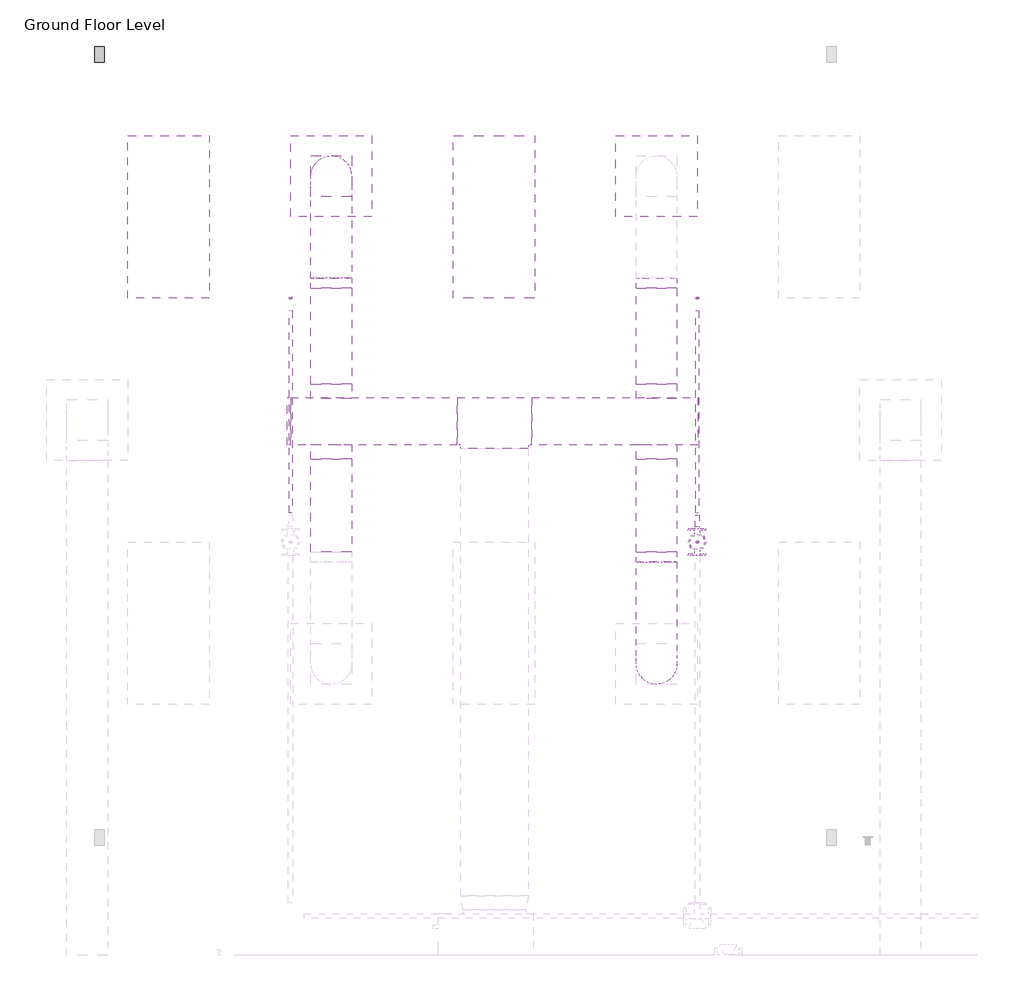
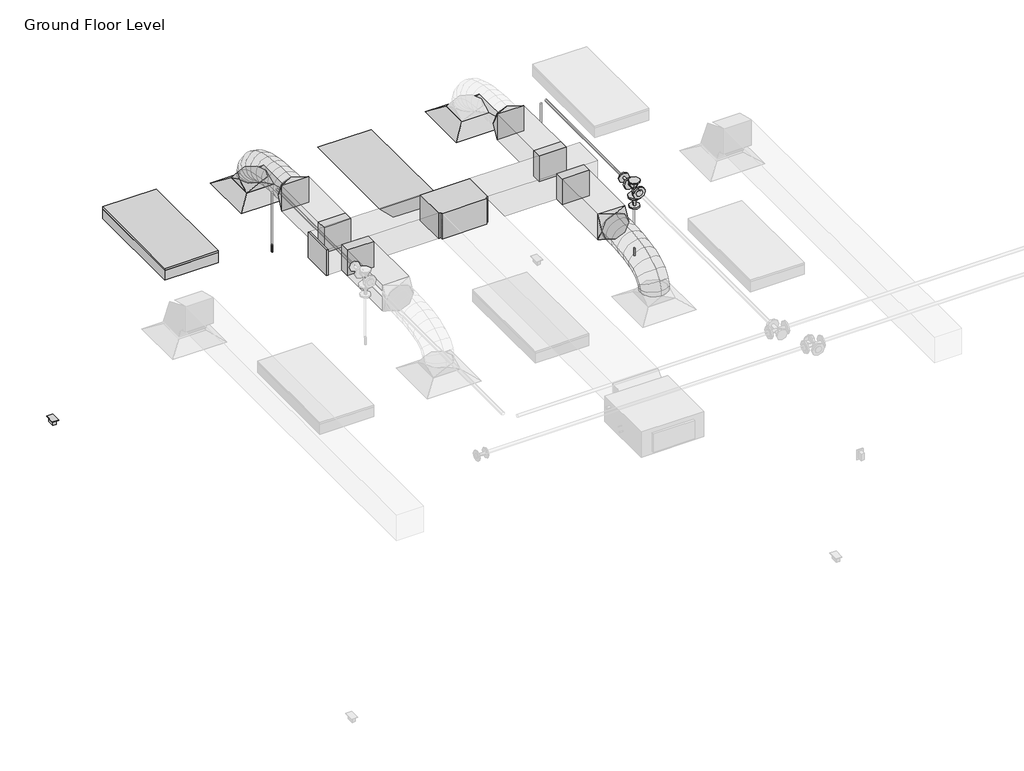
# One storey, part 55 of 74: 10 duct fittings, 8 duct segments, 5 pipe segments, 3 fire suppression terminals, 3 pipe fittings, 2 air terminals, 2 light fixtures, 1 proxy.
"""IFC4 building model written with IfcOpenShell, lengths in millimetres."""

from ifc_helpers import new_model, si_unit, point, frame, frame_2d, origin, place, context, project, spatial, polyline, circle_curve, ellipse_curve, trimmed, segment, composite_curve, outline, extrude, transform, mapped, element, save
from ifc_brep_helpers import plane_surface, cylinder_surface, advanced_brep
from components import m_return_diffuser_600_x_600_face_300_x_300_connection_ff221211, m_duplex_receptacle_standard_10251bba, m_rectangular_endcap_standard_eed78c44, m_rectangular_takeoff_standard_cb0ccb98, m_rectangular_takeoff_standard_2be5eba1, m_rectangular_tee_standard_9fc1ddf1, m_rectangular_to_round_transition_angle_45_degree_641efff0, m_sprinkler_dry_pendent_hosted_15_mm_dry_pendent_9bda8e11, m_emergency_recessed_lighting_fixture_600x1200_277_5b10b25d, m_troffer_light_parabolic_rectangular1_0600x1200mm_4_lamp_86473d4a, m_reducer_flanged_cs_class_150_standard_d42b2106, m_tee_round_base_flanged_cs_class_150_standard_7e5987a1

model = new_model("IFC4")

# Units and contexts
model_context = context("Model", 3, world=origin())
ifc_project = project(units=[si_unit("LENGTHUNIT", "METRE", prefix="MILLI")], contexts=[model_context])

# Site, building, storey
site = spatial("IfcSite", under=ifc_project)
building = spatial("IfcBuilding", under=site)
storey = spatial("IfcBuildingStorey", under=building, Name="Ground Floor Level", Elevation=900.0)

# Air terminals
placement = place(None, origin())
m_return_diffuser_600_x_600_face_300_x_300_connection_shape = m_return_diffuser_600_x_600_face_300_x_300_connection_ff221211(model_context)
element("IfcAirTerminal", 1, ObjectType="M_Supply Diffuser : 600 x 600 Face 300 x 300 Connection", at=placement, inside=storey, context=model_context, shape_type="MappedRepresentation", body=[
    mapped(m_return_diffuser_600_x_600_face_300_x_300_connection_shape, transform((-19137.2327605, 20535.2153534, 3650.0), x_axis=(1.0, 0.0, 0.0), y_axis=(0.0, 1.0, 0.0), z_axis=(0.0, 0.0, 1.0))),
])
element("IfcAirTerminal", 2, ObjectType="M_Supply Diffuser : 600 x 600 Face 300 x 300 Connection", at=placement, inside=storey, context=model_context, shape_type="MappedRepresentation", body=[
    mapped(m_return_diffuser_600_x_600_face_300_x_300_connection_shape, transform((-16737.2327605, 20535.2153534, 3650.0), x_axis=(1.0, 0.0, 0.0), y_axis=(0.0, 1.0, 0.0), z_axis=(0.0, 0.0, 1.0))),
])

# Proxy
m_duplex_receptacle_standard_shape = m_duplex_receptacle_standard_10251bba(model_context)
element("IfcBuildingElementProxy", 3, Name="M_Duplex Receptacle : Standard", ObjectType="M_Duplex Receptacle : Standard", at=placement, inside=storey, context=model_context, shape_type="MappedRepresentation", body=[
    mapped(m_duplex_receptacle_standard_shape, transform((-20847.2327605, 21435.2153534, 1000.0), x_axis=(-1.0, 0.0, 0.0), y_axis=(0.0, -1.0, 0.0), z_axis=(0.0, 0.0, 1.0))),
])

# Duct fittings
m_rectangular_endcap_standard_shape = m_rectangular_endcap_standard_eed78c44(model_context)
element("IfcDuctFitting", 4, ObjectType="M_Rectangular Endcap : Standard", at=placement, inside=storey, context=model_context, shape_type="MappedRepresentation", body=[
    mapped(m_rectangular_endcap_standard_shape, transform((-19437.2326293, 18724.6783949, 4099.9991374), x_axis=(-0.9999999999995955, 0.0, -8.994654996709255e-07), y_axis=(0.0, -1.0000000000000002, 0.0), z_axis=(-8.994654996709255e-07, 0.0, 0.9999999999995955))),
])
m_rectangular_takeoff_standard_shape = m_rectangular_takeoff_standard_cb0ccb98(model_context)
element("IfcDuctFitting", 5, ObjectType="M_Rectangular Takeoff : Standard", at=placement, inside=storey, context=model_context, shape_type="MappedRepresentation", body=[
    mapped(m_rectangular_takeoff_standard_shape, transform((-16737.2327605, 18899.6783949, 4099.9993619), x_axis=(0.0, 1.0, 0.0), y_axis=(1.0, 0.0, 0.0), z_axis=(0.0, 0.0, -1.0))),
])
element("IfcDuctFitting", 6, ObjectType="M_Rectangular Takeoff : Standard", at=placement, inside=storey, context=model_context, shape_type="MappedRepresentation", body=[
    mapped(m_rectangular_takeoff_standard_shape, transform((-19137.2327605, 18549.6783949, 4099.9994072), x_axis=(0.0, -1.0, 0.0), y_axis=(-1.0, 0.0, 0.0), z_axis=(0.0, 0.0, -1.0))),
])
m_rectangular_takeoff_standard_2_shape = m_rectangular_takeoff_standard_2be5eba1(model_context)
element("IfcDuctFitting", 7, ObjectType="M_Rectangular Takeoff : Standard", at=placement, inside=storey, context=model_context, shape_type="MappedRepresentation", body=[
    mapped(m_rectangular_takeoff_standard_2_shape, transform((-19137.2327605, 18899.6783949, 4099.9994072), x_axis=(0.0, 1.0, 0.0), y_axis=(1.0, 0.0, 0.0), z_axis=(0.0, 0.0, -1.0))),
])
element("IfcDuctFitting", 8, ObjectType="M_Rectangular Takeoff : Standard", at=placement, inside=storey, context=model_context, shape_type="MappedRepresentation", body=[
    mapped(m_rectangular_takeoff_standard_2_shape, transform((-16737.2327605, 18549.6783949, 4099.9993619), x_axis=(0.0, -1.0, 0.0), y_axis=(-1.0, 0.0, 0.0), z_axis=(0.0, 0.0, -1.0))),
])
m_rectangular_tee_standard_shape = m_rectangular_tee_standard_9fc1ddf1(model_context)
element("IfcDuctFitting", 9, ObjectType="M_Rectangular Tee : Standard", at=placement, inside=storey, context=model_context, shape_type="MappedRepresentation", body=[
    mapped(m_rectangular_tee_standard_shape, transform((-17933.7327605, 18724.6783949, 4100.0001212), x_axis=(0.999999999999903, 0.0, -4.406637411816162e-07), y_axis=(-1.704451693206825e-12, 0.9999999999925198, -3.867919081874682e-06), z_axis=(4.406637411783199e-07, 3.867919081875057e-06, 0.9999999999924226))),
])
m_rectangular_to_round_transition_angle_45_degree_shape = m_rectangular_to_round_transition_angle_45_degree_641efff0(model_context)
element("IfcDuctFitting", 10, ObjectType="M_Rectangular to Round Transition - Angle : 45 Degree", at=placement, inside=storey, context=model_context, shape_type="MappedRepresentation", body=[
    mapped(m_rectangular_to_round_transition_angle_45_degree_shape, transform((-19137.2327605, 20535.2153534, 3751.6), x_axis=(0.0, 0.0, 1.0), y_axis=(-1.0, 0.0, 0.0), z_axis=(0.0, -1.0, 0.0))),
])
element("IfcDuctFitting", 11, ObjectType="M_Rectangular to Round Transition - Angle : 45 Degree", at=placement, inside=storey, context=model_context, shape_type="MappedRepresentation", body=[
    mapped(m_rectangular_to_round_transition_angle_45_degree_shape, transform((-19137.2327605, 19707.8788293, 4099.9994072), x_axis=(0.0, 1.0, 0.0), y_axis=(-1.0, 0.0, 0.0), z_axis=(0.0, 0.0, 1.0))),
])
element("IfcDuctFitting", 12, ObjectType="M_Rectangular to Round Transition - Angle : 45 Degree", at=placement, inside=storey, context=model_context, shape_type="MappedRepresentation", body=[
    mapped(m_rectangular_to_round_transition_angle_45_degree_shape, transform((-16737.2327605, 19707.878784, 4099.9993619), x_axis=(0.0, 1.0, 0.0), y_axis=(-1.0, 0.0, 0.0), z_axis=(0.0, 0.0, 1.0))),
])
element("IfcDuctFitting", 13, ObjectType="M_Rectangular to Round Transition - Angle : 45 Degree", at=placement, inside=storey, context=model_context, shape_type="MappedRepresentation", body=[
    mapped(m_rectangular_to_round_transition_angle_45_degree_shape, transform((-16737.2327605, 17762.5519228, 4099.9993619), x_axis=(0.0, -1.0, 0.0), y_axis=(1.0, 0.0, 0.0), z_axis=(0.0, 0.0, 1.0))),
])

# Duct segments
element("IfcDuctSegment", 14, ObjectType="Flex - Round", at=placement, inside=storey, context=model_context, shape_type="AdvancedBrep", body=[
    advanced_brep(
    [(-18987.2327605, 20535.2153534, 3826.6), (-19137.2327605, 20385.2153534, 3826.6), (-19287.2327605, 20535.2153534, 3826.6), (-19137.2327605, 20685.2153534, 3826.6), (-18987.2327605, 20535.2153534, 3857.9377363), (-19137.2327605, 20385.2153534, 3832.2944836), (-19287.2327605, 20535.2153534, 3857.9377363), (-19137.2327605, 20685.2153534, 3883.580989), (-18987.2327605, 20518.1994044, 3906.2505836), (-19137.2327605, 20384.4614628, 3834.4349814), (-19287.2327605, 20518.1994044, 3906.2505836), (-19137.2327605, 20651.937346, 3978.0661859), (-18987.2327605, 20471.0154793, 3968.711286), (-19137.2327605, 20366.8096815, 3857.8018941), (-19287.2327605, 20471.0154793, 3968.711286), (-19137.2327605, 20575.2212771, 4079.6206779), (-18987.2327605, 20399.4594609, 4016.0699627), (-19137.2327605, 20330.5255652, 3881.8161947), (-19287.2327605, 20399.4594609, 4016.0699627), (-19137.2327605, 20468.3933566, 4150.3237308), (-18987.2327605, 20309.327232, 4050.4144697), (-19137.2327605, 20265.7666436, 3906.4923095), (-19287.2327605, 20309.327232, 4050.4144697), (-19137.2327605, 20352.8878205, 4194.3366298), (-18987.2327605, 20206.4146755, 4073.8326625), (-19137.2327605, 20179.8539172, 3926.0421182), (-19287.2327605, 20206.4146755, 4073.8326625), (-19137.2327605, 20232.9754339, 4221.6232067), (-18987.2327605, 20096.5176742, 4088.4123969), (-19137.2327605, 20081.3669159, 3939.1081192), (-19287.2327605, 20096.5176742, 4088.4123969), (-19137.2327605, 20111.6684325, 4237.7166746), (-18987.2327605, 19985.4321108, 4096.2415287), (-19137.2327605, 19977.9268947, 3946.3984054), (-19287.2327605, 19985.4321108, 4096.2415287), (-19137.2327605, 19992.937327, 4246.0846519), (-18987.2327605, 19878.9538683, 4099.4079135), (-19137.2327605, 19876.262441, 3949.4216408), (-19287.2327605, 19878.9538683, 4099.4079135), (-19137.2327605, 19881.6452955, 4249.3941863), (-18987.2327605, 19782.8788293, 4099.9994072), (-19137.2327605, 19783.8022988, 4249.9965645), (-19287.2327605, 19782.8788293, 4099.9994072), (-19137.2327605, 19781.9553598, 3950.0022499)],
    [
        (0, 1, circle_curve(frame((-19137.2327605, 20535.2153534, 3826.6), z_axis=(0.0, 0.0, -1.0), x_axis=(1.0, 0.0, 0.0)), 150.0)),
        (1, 2, circle_curve(frame((-19137.2327605, 20535.2153534, 3826.6), z_axis=(0.0, 0.0, -1.0), x_axis=(1.0, 0.0, 0.0)), 150.0)),
        (2, 3, circle_curve(frame((-19137.2327605, 20535.2153534, 3826.6), z_axis=(0.0, 0.0, -1.0), x_axis=(1.0, 0.0, 0.0)), 150.0)),
        (3, 0, circle_curve(frame((-19137.2327605, 20535.2153534, 3826.6), z_axis=(0.0, 0.0, -1.0), x_axis=(1.0, 0.0, 0.0)), 150.0)),
        (0, 4),
        (4, 5, ellipse_curve(frame((-19137.2327605, 20535.2153534, 3857.9377363), z_axis=(0.0, 0.16851034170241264, -0.9856998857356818), x_axis=(0.0, -0.9856998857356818, -0.16851034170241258)), 152.1761361, 150.0)),
        (5, 1),
        (5, 6, ellipse_curve(frame((-19137.2327605, 20535.2153534, 3857.9377363), z_axis=(0.0, 0.16851034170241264, -0.9856998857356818), x_axis=(0.0, -0.9856998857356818, -0.16851034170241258)), 152.1761361, 150.0)),
        (6, 2),
        (6, 7, ellipse_curve(frame((-19137.2327605, 20535.2153534, 3857.9377363), z_axis=(0.0, 0.16851034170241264, -0.9856998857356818), x_axis=(0.0, -0.9856998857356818, -0.16851034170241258)), 152.1761361, 150.0)),
        (7, 3),
        (7, 4, ellipse_curve(frame((-19137.2327605, 20535.2153534, 3857.9377363), z_axis=(0.0, 0.16851034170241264, -0.9856998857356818), x_axis=(0.0, -0.9856998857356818, -0.16851034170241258)), 152.1761361, 150.0)),
        (4, 8),
        (8, 9, ellipse_curve(frame((-19137.2327605, 20518.1994044, 3906.2505836), z_axis=(0.0, 0.4730927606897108, -0.8810126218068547), x_axis=(0.0, -0.8810126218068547, -0.47309276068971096)), 151.8002561, 150.0)),
        (9, 5),
        (9, 10, ellipse_curve(frame((-19137.2327605, 20518.1994044, 3906.2505836), z_axis=(0.0, 0.4730927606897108, -0.8810126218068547), x_axis=(0.0, -0.8810126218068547, -0.47309276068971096)), 151.8002561, 150.0)),
        (10, 6),
        (10, 11, ellipse_curve(frame((-19137.2327605, 20518.1994044, 3906.2505836), z_axis=(0.0, 0.4730927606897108, -0.8810126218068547), x_axis=(0.0, -0.8810126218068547, -0.47309276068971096)), 151.8002561, 150.0)),
        (11, 7),
        (11, 8, ellipse_curve(frame((-19137.2327605, 20518.1994044, 3906.2505836), z_axis=(0.0, 0.4730927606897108, -0.8810126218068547), x_axis=(0.0, -0.8810126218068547, -0.47309276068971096)), 151.8002561, 150.0)),
        (8, 12),
        (12, 13, ellipse_curve(frame((-19137.2327605, 20471.0154793, 3968.711286), z_axis=(0.0, 0.7287884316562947, -0.6847389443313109), x_axis=(0.0, -0.6847389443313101, -0.7287884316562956)), 152.1832498, 150.0)),
        (13, 9),
        (13, 14, ellipse_curve(frame((-19137.2327605, 20471.0154793, 3968.711286), z_axis=(0.0, 0.7287884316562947, -0.6847389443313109), x_axis=(0.0, -0.6847389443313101, -0.7287884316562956)), 152.1832498, 150.0)),
        (14, 10),
        (14, 15, ellipse_curve(frame((-19137.2327605, 20471.0154793, 3968.711286), z_axis=(0.0, 0.7287884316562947, -0.6847389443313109), x_axis=(0.0, -0.6847389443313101, -0.7287884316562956)), 152.1832498, 150.0)),
        (15, 11),
        (15, 12, ellipse_curve(frame((-19137.2327605, 20471.0154793, 3968.711286), z_axis=(0.0, 0.7287884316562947, -0.6847389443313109), x_axis=(0.0, -0.6847389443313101, -0.7287884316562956)), 152.1832498, 150.0)),
        (12, 16),
        (16, 17, ellipse_curve(frame((-19137.2327605, 20399.4594609, 4016.0699627), z_axis=(0.0, 0.8895864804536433, -0.45676678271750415), x_axis=(0.0, -0.4567667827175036, -0.8895864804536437)), 150.9170508, 150.0)),
        (17, 13),
        (17, 18, ellipse_curve(frame((-19137.2327605, 20399.4594609, 4016.0699627), z_axis=(0.0, 0.8895864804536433, -0.45676678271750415), x_axis=(0.0, -0.4567667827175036, -0.8895864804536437)), 150.9170508, 150.0)),
        (18, 14),
        (18, 19, ellipse_curve(frame((-19137.2327605, 20399.4594609, 4016.0699627), z_axis=(0.0, 0.8895864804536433, -0.45676678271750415), x_axis=(0.0, -0.4567667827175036, -0.8895864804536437)), 150.9170508, 150.0)),
        (19, 15),
        (19, 16, ellipse_curve(frame((-19137.2327605, 20399.4594609, 4016.0699627), z_axis=(0.0, 0.8895864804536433, -0.45676678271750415), x_axis=(0.0, -0.4567667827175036, -0.8895864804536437)), 150.9170508, 150.0)),
        (16, 20),
        (20, 21, ellipse_curve(frame((-19137.2327605, 20309.327232, 4050.4144697), z_axis=(0.0, 0.9571206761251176, -0.28968950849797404), x_axis=(0.0, -0.2896895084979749, -0.9571206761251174)), 150.3699207, 150.0)),
        (21, 17),
        (21, 22, ellipse_curve(frame((-19137.2327605, 20309.327232, 4050.4144697), z_axis=(0.0, 0.9571206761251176, -0.28968950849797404), x_axis=(0.0, -0.2896895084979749, -0.9571206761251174)), 150.3699207, 150.0)),
        (22, 18),
        (22, 23, ellipse_curve(frame((-19137.2327605, 20309.327232, 4050.4144697), z_axis=(0.0, 0.9571206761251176, -0.28968950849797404), x_axis=(0.0, -0.2896895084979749, -0.9571206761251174)), 150.3699207, 150.0)),
        (23, 19),
        (23, 20, ellipse_curve(frame((-19137.2327605, 20309.327232, 4050.4144697), z_axis=(0.0, 0.9571206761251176, -0.28968950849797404), x_axis=(0.0, -0.2896895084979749, -0.9571206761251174)), 150.3699207, 150.0)),
        (20, 24),
        (24, 25, ellipse_curve(frame((-19137.2327605, 20206.4146755, 4073.8326625), z_axis=(0.0, 0.9842315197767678, -0.17688503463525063), x_axis=(0.0, -0.17688503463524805, -0.9842315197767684)), 150.1583126, 150.0)),
        (25, 21),
        (25, 26, ellipse_curve(frame((-19137.2327605, 20206.4146755, 4073.8326625), z_axis=(0.0, 0.9842315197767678, -0.17688503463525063), x_axis=(0.0, -0.17688503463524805, -0.9842315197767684)), 150.1583126, 150.0)),
        (26, 22),
        (26, 27, ellipse_curve(frame((-19137.2327605, 20206.4146755, 4073.8326625), z_axis=(0.0, 0.9842315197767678, -0.17688503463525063), x_axis=(0.0, -0.17688503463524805, -0.9842315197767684)), 150.1583126, 150.0)),
        (27, 23),
        (27, 24, ellipse_curve(frame((-19137.2327605, 20206.4146755, 4073.8326625), z_axis=(0.0, 0.9842315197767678, -0.17688503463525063), x_axis=(0.0, -0.17688503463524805, -0.9842315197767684)), 150.1583126, 150.0)),
        (24, 28),
        (28, 29, ellipse_curve(frame((-19137.2327605, 20096.5176742, 4088.4123969), z_axis=(0.0, 0.994890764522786, -0.10095725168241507), x_axis=(0.0, -0.10095725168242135, -0.9948907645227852)), 150.0710259, 150.0)),
        (29, 25),
        (29, 30, ellipse_curve(frame((-19137.2327605, 20096.5176742, 4088.4123969), z_axis=(0.0, 0.994890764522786, -0.10095725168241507), x_axis=(0.0, -0.10095725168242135, -0.9948907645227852)), 150.0710259, 150.0)),
        (30, 26),
        (30, 31, ellipse_curve(frame((-19137.2327605, 20096.5176742, 4088.4123969), z_axis=(0.0, 0.994890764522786, -0.10095725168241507), x_axis=(0.0, -0.10095725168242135, -0.9948907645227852)), 150.0710259, 150.0)),
        (31, 27),
        (31, 28, ellipse_curve(frame((-19137.2327605, 20096.5176742, 4088.4123969), z_axis=(0.0, 0.994890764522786, -0.10095725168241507), x_axis=(0.0, -0.10095725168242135, -0.9948907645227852)), 150.0710259, 150.0)),
        (28, 32),
        (32, 33, ellipse_curve(frame((-19137.2327605, 19985.4321108, 4096.2415287), z_axis=(0.0, 0.9987479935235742, -0.05002444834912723), x_axis=(0.0, -0.05002444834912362, -0.9987479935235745)), 150.030963, 150.0)),
        (33, 29),
        (33, 34, ellipse_curve(frame((-19137.2327605, 19985.4321108, 4096.2415287), z_axis=(0.0, 0.9987479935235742, -0.05002444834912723), x_axis=(0.0, -0.05002444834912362, -0.9987479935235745)), 150.030963, 150.0)),
        (34, 30),
        (34, 35, ellipse_curve(frame((-19137.2327605, 19985.4321108, 4096.2415287), z_axis=(0.0, 0.9987479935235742, -0.05002444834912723), x_axis=(0.0, -0.05002444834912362, -0.9987479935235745)), 150.030963, 150.0)),
        (35, 31),
        (35, 32, ellipse_curve(frame((-19137.2327605, 19985.4321108, 4096.2415287), z_axis=(0.0, 0.9987479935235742, -0.05002444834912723), x_axis=(0.0, -0.05002444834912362, -0.9987479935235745)), 150.030963, 150.0)),
        (32, 36),
        (36, 37, ellipse_curve(frame((-19137.2327605, 19878.9538683, 4099.4079135), z_axis=(0.0, 0.9998390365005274, -0.017941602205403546), x_axis=(0.0, -0.01794160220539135, -0.9998390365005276)), 150.0104189, 150.0)),
        (37, 33),
        (37, 38, ellipse_curve(frame((-19137.2327605, 19878.9538683, 4099.4079135), z_axis=(0.0, 0.9998390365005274, -0.017941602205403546), x_axis=(0.0, -0.01794160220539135, -0.9998390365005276)), 150.0104189, 150.0)),
        (38, 34),
        (38, 39, ellipse_curve(frame((-19137.2327605, 19878.9538683, 4099.4079135), z_axis=(0.0, 0.9998390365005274, -0.017941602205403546), x_axis=(0.0, -0.01794160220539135, -0.9998390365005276)), 150.0104189, 150.0)),
        (39, 35),
        (39, 36, ellipse_curve(frame((-19137.2327605, 19878.9538683, 4099.4079135), z_axis=(0.0, 0.9998390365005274, -0.017941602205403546), x_axis=(0.0, -0.01794160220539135, -0.9998390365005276)), 150.0104189, 150.0)),
        (40, 41, circle_curve(frame((-19137.2327605, 19782.8788293, 4099.9994072), z_axis=(0.0, -0.9999810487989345, 0.006156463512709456), x_axis=(1.0, 0.0, 0.0)), 150.0)),
        (41, 42, circle_curve(frame((-19137.2327605, 19782.8788293, 4099.9994072), z_axis=(0.0, -0.9999810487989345, 0.006156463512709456), x_axis=(1.0, 0.0, 0.0)), 150.0)),
        (42, 43, circle_curve(frame((-19137.2327605, 19782.8788293, 4099.9994072), z_axis=(0.0, -0.9999810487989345, 0.006156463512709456), x_axis=(1.0, 0.0, 0.0)), 150.0)),
        (43, 40, circle_curve(frame((-19137.2327605, 19782.8788293, 4099.9994072), z_axis=(0.0, -0.9999810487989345, 0.006156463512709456), x_axis=(1.0, 0.0, 0.0)), 150.0)),
        (36, 40),
        (43, 37),
        (42, 38),
        (41, 39),
    ],
    [
        plane_surface(frame((-19137.2327605, 20385.2153534, 3826.6), z_axis=(0.0, 0.0, -1.0), x_axis=(1.0, 0.0, 0.0))),
        cylinder_surface(frame((-19137.2327605, 20535.2153534, 3826.6), z_axis=(0.0, 0.0, -1.0), x_axis=(1.0, 0.0, 0.0)), 150.0),
        cylinder_surface(frame((-19137.2327605, 20535.2153534, 3857.9377363), z_axis=(0.0, 0.33220124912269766, -0.9432085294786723), x_axis=(1.0, 0.0, 0.0)), 150.0),
        cylinder_surface(frame((-19137.2327605, 20518.1994044, 3906.2505836), z_axis=(0.0, 0.602763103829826, -0.7979201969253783), x_axis=(1.0, 0.0, 0.0)), 150.0),
        cylinder_surface(frame((-19137.2327605, 20471.0154793, 3968.711286), z_axis=(0.0, 0.8339030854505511, -0.5519109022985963), x_axis=(1.0, 0.0, 0.0)), 150.0),
        cylinder_surface(frame((-19137.2327605, 20399.4594609, 4016.0699627), z_axis=(0.0, 0.9344586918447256, -0.3560715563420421), x_axis=(1.0, 0.0, 0.0)), 150.0),
        cylinder_surface(frame((-19137.2327605, 20309.327232, 4050.4144697), z_axis=(0.0, 0.9750734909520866, -0.22188214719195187), x_axis=(1.0, 0.0, 0.0)), 150.0),
        cylinder_surface(frame((-19137.2327605, 20206.4146755, 4073.8326625), z_axis=(0.0, 0.9913141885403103, -0.1315149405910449), x_axis=(1.0, 0.0, 0.0)), 150.0),
        cylinder_surface(frame((-19137.2327605, 20096.5176742, 4088.4123969), z_axis=(0.0, 0.9975256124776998, -0.07030400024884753), x_axis=(1.0, 0.0, 0.0)), 150.0),
        cylinder_surface(frame((-19137.2327605, 19985.4321108, 4096.2415287), z_axis=(0.0, 0.9995581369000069, -0.029724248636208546), x_axis=(1.0, 0.0, 0.0)), 150.0),
        plane_surface(frame((-19137.2327605, 19781.9553598, 3950.0022499), z_axis=(0.0, -0.9999810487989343, 0.0061564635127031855), x_axis=(1.0, 0.0, 0.0))),
        cylinder_surface(frame((-19137.2327605, 19878.9538683, 4099.4079135), z_axis=(0.0, 0.9999810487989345, -0.006156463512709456), x_axis=(1.0, 0.0, 0.0)), 150.0),
    ],
    [
        (0, [[1, 2, 3, 4]]),
        (1, [[-1, 5, 6, 7]]),
        (1, [[-2, -7, 8, 9]]),
        (1, [[-3, -9, 10, 11]]),
        (1, [[-4, -11, 12, -5]]),
        (2, [[-6, 13, 14, 15]]),
        (2, [[-8, -15, 16, 17]]),
        (2, [[-10, -17, 18, 19]]),
        (2, [[-12, -19, 20, -13]]),
        (3, [[-14, 21, 22, 23]]),
        (3, [[-16, -23, 24, 25]]),
        (3, [[-18, -25, 26, 27]]),
        (3, [[-20, -27, 28, -21]]),
        (4, [[-22, 29, 30, 31]]),
        (4, [[-24, -31, 32, 33]]),
        (4, [[-26, -33, 34, 35]]),
        (4, [[-28, -35, 36, -29]]),
        (5, [[-30, 37, 38, 39]]),
        (5, [[-32, -39, 40, 41]]),
        (5, [[-34, -41, 42, 43]]),
        (5, [[-36, -43, 44, -37]]),
        (6, [[-38, 45, 46, 47]]),
        (6, [[-40, -47, 48, 49]]),
        (6, [[-42, -49, 50, 51]]),
        (6, [[-44, -51, 52, -45]]),
        (7, [[-46, 53, 54, 55]]),
        (7, [[-48, -55, 56, 57]]),
        (7, [[-50, -57, 58, 59]]),
        (7, [[-52, -59, 60, -53]]),
        (8, [[-54, 61, 62, 63]]),
        (8, [[-56, -63, 64, 65]]),
        (8, [[-58, -65, 66, 67]]),
        (8, [[-60, -67, 68, -61]]),
        (9, [[-62, 69, 70, 71]]),
        (9, [[-64, -71, 72, 73]]),
        (9, [[-66, -73, 74, 75]]),
        (9, [[-68, -75, 76, -69]]),
        (10, [[77, 78, 79, 80]]),
        (11, [[-70, 81, -80, 82]]),
        (11, [[-72, -82, -79, 83]]),
        (11, [[-74, -83, -78, 84]]),
        (11, [[-76, -84, -77, -81]]),
    ],
),
])
element("IfcDuctSegment", 15, ObjectType="Flex - Round", at=placement, inside=storey, context=model_context, shape_type="AdvancedBrep", body=[
    advanced_brep(
    [(-16587.2327605, 16935.2153534, 3826.6), (-16737.2327605, 16785.2153534, 3826.6), (-16887.2327605, 16935.2153534, 3826.6), (-16737.2327605, 17085.2153534, 3826.6), (-16587.2327605, 16935.2153534, 3857.9377382), (-16737.2327605, 16785.2153534, 3883.5809933), (-16887.2327605, 16935.2153534, 3857.9377382), (-16737.2327605, 17085.2153534, 3832.2944832), (-16587.2327605, 16952.2313036, 3906.2505845), (-16737.2327605, 16818.4933649, 3978.0661927), (-16887.2327605, 16952.2313036, 3906.2505845), (-16737.2327605, 17085.9692424, 3834.4349763), (-16587.2327605, 16999.4152322, 3968.7112839), (-16737.2327605, 16895.2094421, 4079.6206836), (-16887.2327605, 16999.4152322, 3968.7112839), (-16737.2327605, 17103.6210222, 3857.8018842), (-16587.2327605, 17070.9712556, 4016.069955), (-16737.2327605, 17002.0373721, 4150.3237294), (-16887.2327605, 17070.9712556, 4016.069955), (-16737.2327605, 17139.9051391, 3881.8161806), (-16587.2327605, 17161.1034906, 4050.4144545), (-16737.2327605, 17117.5429156, 4194.3366186), (-16887.2327605, 17161.1034906, 4050.4144545), (-16737.2327605, 17204.6640657, 3906.4922903), (-16587.2327605, 17264.0160539, 4073.832639), (-16737.2327605, 17237.4553083, 4221.6231855), (-16887.2327605, 17264.0160539, 4073.832639), (-16737.2327605, 17290.5767996, 3926.0420925), (-16587.2327605, 17373.9130621, 4088.4123653), (-16737.2327605, 17358.7623148, 4237.7166441), (-16887.2327605, 17373.9130621, 4088.4123653), (-16737.2327605, 17389.0638095, 3939.1080865), (-16587.2327605, 17484.9986319, 4096.2414901), (-16737.2327605, 17477.4934243, 4246.0846137), (-16887.2327605, 17484.9986319, 4096.2414901), (-16737.2327605, 17492.5038395, 3946.3983665), (-16587.2327605, 17591.4768799, 4099.4078701), (-16737.2327605, 17588.7854577, 4249.3941429), (-16887.2327605, 17591.4768799, 4099.4078701), (-16737.2327605, 17594.1683021, 3949.4215972), (-16587.2327605, 17687.5519228, 4099.9993619), (-16737.2327605, 17688.4753894, 3950.0022045), (-16887.2327605, 17687.5519228, 4099.9993619), (-16737.2327605, 17686.6284562, 4249.9965192)],
    [
        (0, 1, circle_curve(frame((-16737.2327605, 16935.2153534, 3826.6), z_axis=(0.0, 0.0, -1.0), x_axis=(1.0, 0.0, 0.0)), 150.0)),
        (1, 2, circle_curve(frame((-16737.2327605, 16935.2153534, 3826.6), z_axis=(0.0, 0.0, -1.0), x_axis=(1.0, 0.0, 0.0)), 150.0)),
        (2, 3, circle_curve(frame((-16737.2327605, 16935.2153534, 3826.6), z_axis=(0.0, 0.0, -1.0), x_axis=(1.0, 0.0, 0.0)), 150.0)),
        (3, 0, circle_curve(frame((-16737.2327605, 16935.2153534, 3826.6), z_axis=(0.0, 0.0, -1.0), x_axis=(1.0, 0.0, 0.0)), 150.0)),
        (0, 4),
        (4, 5, ellipse_curve(frame((-16737.2327605, 16935.2153534, 3857.9377382), z_axis=(0.0, -0.16851035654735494, -0.9856998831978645), x_axis=(0.0, 0.9856998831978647, -0.16851035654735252)), 152.1761365, 150.0)),
        (5, 1),
        (5, 6, ellipse_curve(frame((-16737.2327605, 16935.2153534, 3857.9377382), z_axis=(0.0, -0.16851035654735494, -0.9856998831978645), x_axis=(0.0, 0.9856998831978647, -0.16851035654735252)), 152.1761365, 150.0)),
        (6, 2),
        (6, 7, ellipse_curve(frame((-16737.2327605, 16935.2153534, 3857.9377382), z_axis=(0.0, -0.16851035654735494, -0.9856998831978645), x_axis=(0.0, 0.9856998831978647, -0.16851035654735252)), 152.1761365, 150.0)),
        (7, 3),
        (7, 4, ellipse_curve(frame((-16737.2327605, 16935.2153534, 3857.9377382), z_axis=(0.0, -0.16851035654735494, -0.9856998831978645), x_axis=(0.0, 0.9856998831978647, -0.16851035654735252)), 152.1761365, 150.0)),
        (4, 8),
        (8, 9, ellipse_curve(frame((-16737.2327605, 16952.2313036, 3906.2505845), z_axis=(0.0, -0.47309279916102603, -0.8810126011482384), x_axis=(0.0, 0.8810126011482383, -0.4730927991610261)), 151.8002564, 150.0)),
        (9, 5),
        (9, 10, ellipse_curve(frame((-16737.2327605, 16952.2313036, 3906.2505845), z_axis=(0.0, -0.47309279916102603, -0.8810126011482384), x_axis=(0.0, 0.8810126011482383, -0.4730927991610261)), 151.8002564, 150.0)),
        (10, 6),
        (10, 11, ellipse_curve(frame((-16737.2327605, 16952.2313036, 3906.2505845), z_axis=(0.0, -0.47309279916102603, -0.8810126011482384), x_axis=(0.0, 0.8810126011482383, -0.4730927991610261)), 151.8002564, 150.0)),
        (11, 7),
        (11, 8, ellipse_curve(frame((-16737.2327605, 16952.2313036, 3906.2505845), z_axis=(0.0, -0.47309279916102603, -0.8810126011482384), x_axis=(0.0, 0.8810126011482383, -0.4730927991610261)), 151.8002564, 150.0)),
        (8, 12),
        (12, 13, ellipse_curve(frame((-16737.2327605, 16999.4152322, 3968.7112839), z_axis=(0.0, -0.7287884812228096, -0.6847388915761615), x_axis=(0.0, 0.6847388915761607, -0.7287884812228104)), 152.1832501, 150.0)),
        (13, 9),
        (13, 14, ellipse_curve(frame((-16737.2327605, 16999.4152322, 3968.7112839), z_axis=(0.0, -0.7287884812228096, -0.6847388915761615), x_axis=(0.0, 0.6847388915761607, -0.7287884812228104)), 152.1832501, 150.0)),
        (14, 10),
        (14, 15, ellipse_curve(frame((-16737.2327605, 16999.4152322, 3968.7112839), z_axis=(0.0, -0.7287884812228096, -0.6847388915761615), x_axis=(0.0, 0.6847388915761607, -0.7287884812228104)), 152.1832501, 150.0)),
        (15, 11),
        (15, 12, ellipse_curve(frame((-16737.2327605, 16999.4152322, 3968.7112839), z_axis=(0.0, -0.7287884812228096, -0.6847388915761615), x_axis=(0.0, 0.6847388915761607, -0.7287884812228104)), 152.1832501, 150.0)),
        (12, 16),
        (16, 17, ellipse_curve(frame((-16737.2327605, 17070.9712556, 4016.069955), z_axis=(0.0, -0.8895865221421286, -0.4567667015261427), x_axis=(0.0, 0.45676670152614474, -0.8895865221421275)), 150.9170508, 150.0)),
        (17, 13),
        (17, 18, ellipse_curve(frame((-16737.2327605, 17070.9712556, 4016.069955), z_axis=(0.0, -0.8895865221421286, -0.4567667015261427), x_axis=(0.0, 0.45676670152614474, -0.8895865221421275)), 150.9170508, 150.0)),
        (18, 14),
        (18, 19, ellipse_curve(frame((-16737.2327605, 17070.9712556, 4016.069955), z_axis=(0.0, -0.8895865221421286, -0.4567667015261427), x_axis=(0.0, 0.45676670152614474, -0.8895865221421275)), 150.9170508, 150.0)),
        (19, 15),
        (19, 16, ellipse_curve(frame((-16737.2327605, 17070.9712556, 4016.069955), z_axis=(0.0, -0.8895865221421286, -0.4567667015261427), x_axis=(0.0, 0.45676670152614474, -0.8895865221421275)), 150.9170508, 150.0)),
        (16, 20),
        (20, 21, ellipse_curve(frame((-16737.2327605, 17161.1034906, 4050.4144545), z_axis=(0.0, -0.9571207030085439, -0.289689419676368), x_axis=(0.0, 0.28968941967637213, -0.9571207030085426)), 150.3699206, 150.0)),
        (21, 17),
        (21, 22, ellipse_curve(frame((-16737.2327605, 17161.1034906, 4050.4144545), z_axis=(0.0, -0.9571207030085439, -0.289689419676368), x_axis=(0.0, 0.28968941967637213, -0.9571207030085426)), 150.3699206, 150.0)),
        (22, 18),
        (22, 23, ellipse_curve(frame((-16737.2327605, 17161.1034906, 4050.4144545), z_axis=(0.0, -0.9571207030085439, -0.289689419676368), x_axis=(0.0, 0.28968941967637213, -0.9571207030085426)), 150.3699206, 150.0)),
        (23, 19),
        (23, 20, ellipse_curve(frame((-16737.2327605, 17161.1034906, 4050.4144545), z_axis=(0.0, -0.9571207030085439, -0.289689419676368), x_axis=(0.0, 0.28968941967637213, -0.9571207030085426)), 150.3699206, 150.0)),
        (20, 24),
        (24, 25, ellipse_curve(frame((-16737.2327605, 17264.0160539, 4073.832639), z_axis=(0.0, -0.9842315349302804, -0.17688495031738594), x_axis=(0.0, 0.17688495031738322, -0.9842315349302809)), 150.1583126, 150.0)),
        (25, 21),
        (25, 26, ellipse_curve(frame((-16737.2327605, 17264.0160539, 4073.832639), z_axis=(0.0, -0.9842315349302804, -0.17688495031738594), x_axis=(0.0, 0.17688495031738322, -0.9842315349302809)), 150.1583126, 150.0)),
        (26, 22),
        (26, 27, ellipse_curve(frame((-16737.2327605, 17264.0160539, 4073.832639), z_axis=(0.0, -0.9842315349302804, -0.17688495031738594), x_axis=(0.0, 0.17688495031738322, -0.9842315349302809)), 150.1583126, 150.0)),
        (27, 23),
        (27, 24, ellipse_curve(frame((-16737.2327605, 17264.0160539, 4073.832639), z_axis=(0.0, -0.9842315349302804, -0.17688495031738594), x_axis=(0.0, 0.17688495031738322, -0.9842315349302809)), 150.1583126, 150.0)),
        (24, 28),
        (28, 29, ellipse_curve(frame((-16737.2327605, 17373.9130621, 4088.4123653), z_axis=(0.0, -0.9948907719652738, -0.10095717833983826), x_axis=(0.0, 0.10095717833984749, -0.9948907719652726)), 150.0710259, 150.0)),
        (29, 25),
        (29, 30, ellipse_curve(frame((-16737.2327605, 17373.9130621, 4088.4123653), z_axis=(0.0, -0.9948907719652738, -0.10095717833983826), x_axis=(0.0, 0.10095717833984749, -0.9948907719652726)), 150.0710259, 150.0)),
        (30, 26),
        (30, 31, ellipse_curve(frame((-16737.2327605, 17373.9130621, 4088.4123653), z_axis=(0.0, -0.9948907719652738, -0.10095717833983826), x_axis=(0.0, 0.10095717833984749, -0.9948907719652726)), 150.0710259, 150.0)),
        (31, 27),
        (31, 28, ellipse_curve(frame((-16737.2327605, 17373.9130621, 4088.4123653), z_axis=(0.0, -0.9948907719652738, -0.10095717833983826), x_axis=(0.0, 0.10095717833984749, -0.9948907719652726)), 150.0710259, 150.0)),
        (28, 32),
        (32, 33, ellipse_curve(frame((-16737.2327605, 17484.9986319, 4096.2414901), z_axis=(0.0, -0.9987479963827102, -0.05002439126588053), x_axis=(0.0, 0.050024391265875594, -0.9987479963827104)), 150.0309629, 150.0)),
        (33, 29),
        (33, 34, ellipse_curve(frame((-16737.2327605, 17484.9986319, 4096.2414901), z_axis=(0.0, -0.9987479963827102, -0.05002439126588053), x_axis=(0.0, 0.050024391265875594, -0.9987479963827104)), 150.0309629, 150.0)),
        (34, 30),
        (34, 35, ellipse_curve(frame((-16737.2327605, 17484.9986319, 4096.2414901), z_axis=(0.0, -0.9987479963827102, -0.05002439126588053), x_axis=(0.0, 0.050024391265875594, -0.9987479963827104)), 150.0309629, 150.0)),
        (35, 31),
        (35, 32, ellipse_curve(frame((-16737.2327605, 17484.9986319, 4096.2414901), z_axis=(0.0, -0.9987479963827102, -0.05002439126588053), x_axis=(0.0, 0.050024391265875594, -0.9987479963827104)), 150.0309629, 150.0)),
        (32, 36),
        (36, 37, ellipse_curve(frame((-16737.2327605, 17591.4768799, 4099.4078701), z_axis=(0.0, -0.9998390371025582, -0.01794156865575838), x_axis=(0.0, 0.017941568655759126, -0.9998390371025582)), 150.0104189, 150.0)),
        (37, 33),
        (37, 38, ellipse_curve(frame((-16737.2327605, 17591.4768799, 4099.4078701), z_axis=(0.0, -0.9998390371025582, -0.01794156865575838), x_axis=(0.0, 0.017941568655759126, -0.9998390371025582)), 150.0104189, 150.0)),
        (38, 34),
        (38, 39, ellipse_curve(frame((-16737.2327605, 17591.4768799, 4099.4078701), z_axis=(0.0, -0.9998390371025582, -0.01794156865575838), x_axis=(0.0, 0.017941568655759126, -0.9998390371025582)), 150.0104189, 150.0)),
        (39, 35),
        (39, 36, ellipse_curve(frame((-16737.2327605, 17591.4768799, 4099.4078701), z_axis=(0.0, -0.9998390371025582, -0.01794156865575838), x_axis=(0.0, 0.017941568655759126, -0.9998390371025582)), 150.0104189, 150.0)),
        (40, 41, circle_curve(frame((-16737.2327605, 17687.5519228, 4099.9993619), z_axis=(0.0, 0.9999810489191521, 0.006156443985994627), x_axis=(1.0, 0.0, 0.0)), 150.0)),
        (41, 42, circle_curve(frame((-16737.2327605, 17687.5519228, 4099.9993619), z_axis=(0.0, 0.9999810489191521, 0.006156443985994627), x_axis=(1.0, 0.0, 0.0)), 150.0)),
        (42, 43, circle_curve(frame((-16737.2327605, 17687.5519228, 4099.9993619), z_axis=(0.0, 0.9999810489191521, 0.006156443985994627), x_axis=(1.0, 0.0, 0.0)), 150.0)),
        (43, 40, circle_curve(frame((-16737.2327605, 17687.5519228, 4099.9993619), z_axis=(0.0, 0.9999810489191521, 0.006156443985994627), x_axis=(1.0, 0.0, 0.0)), 150.0)),
        (36, 40),
        (43, 37),
        (42, 38),
        (41, 39),
    ],
    [
        plane_surface(frame((-16737.2327605, 16785.2153534, 3826.6), z_axis=(0.0, 0.0, -1.0), x_axis=(1.0, 0.0, 0.0))),
        cylinder_surface(frame((-16737.2327605, 16935.2153534, 3826.6), z_axis=(0.0, 0.0, -1.0), x_axis=(1.0, 0.0, 0.0)), 150.0),
        cylinder_surface(frame((-16737.2327605, 16935.2153534, 3857.9377382), z_axis=(0.0, -0.3322012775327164, -0.9432085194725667), x_axis=(1.0, 0.0, 0.0)), 150.0),
        cylinder_surface(frame((-16737.2327605, 16952.2313036, 3906.2505845), z_axis=(0.0, -0.6027631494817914, -0.7979201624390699), x_axis=(1.0, 0.0, 0.0)), 150.0),
        cylinder_surface(frame((-16737.2327605, 16999.4152322, 3968.7112839), z_axis=(0.0, -0.8339031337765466, -0.5519108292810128), x_axis=(1.0, 0.0, 0.0)), 150.0),
        cylinder_surface(frame((-16737.2327605, 17070.9712556, 4016.069955), z_axis=(0.0, -0.9344587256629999, -0.35607146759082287), x_axis=(1.0, 0.0, 0.0)), 150.0),
        cylinder_surface(frame((-16737.2327605, 17161.1034906, 4050.4144545), z_axis=(0.0, -0.9750735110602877, -0.2218820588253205), x_axis=(1.0, 0.0, 0.0)), 150.0),
        cylinder_surface(frame((-16737.2327605, 17264.0160539, 4073.832639), z_axis=(0.0, -0.9913141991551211, -0.1315148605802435), x_axis=(1.0, 0.0, 0.0)), 150.0),
        cylinder_surface(frame((-16737.2327605, 17373.9130621, 4088.4123653), z_axis=(0.0, -0.9975256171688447, -0.07030393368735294), x_axis=(1.0, 0.0, 0.0)), 150.0),
        cylinder_surface(frame((-16737.2327605, 17484.9986319, 4096.2414901), z_axis=(0.0, -0.999558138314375, -0.029724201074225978), x_axis=(1.0, 0.0, 0.0)), 150.0),
        plane_surface(frame((-16737.2327605, 17686.6284562, 4249.9965192), z_axis=(0.0, 0.999981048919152, 0.0061564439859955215), x_axis=(1.0, 0.0, 0.0))),
        cylinder_surface(frame((-16737.2327605, 17591.4768799, 4099.4078701), z_axis=(0.0, -0.9999810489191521, -0.006156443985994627), x_axis=(1.0, 0.0, 0.0)), 150.0),
    ],
    [
        (0, [[1, 2, 3, 4]]),
        (1, [[-1, 5, 6, 7]]),
        (1, [[-2, -7, 8, 9]]),
        (1, [[-3, -9, 10, 11]]),
        (1, [[-4, -11, 12, -5]]),
        (2, [[-6, 13, 14, 15]]),
        (2, [[-8, -15, 16, 17]]),
        (2, [[-10, -17, 18, 19]]),
        (2, [[-12, -19, 20, -13]]),
        (3, [[-14, 21, 22, 23]]),
        (3, [[-16, -23, 24, 25]]),
        (3, [[-18, -25, 26, 27]]),
        (3, [[-20, -27, 28, -21]]),
        (4, [[-22, 29, 30, 31]]),
        (4, [[-24, -31, 32, 33]]),
        (4, [[-26, -33, 34, 35]]),
        (4, [[-28, -35, 36, -29]]),
        (5, [[-30, 37, 38, 39]]),
        (5, [[-32, -39, 40, 41]]),
        (5, [[-34, -41, 42, 43]]),
        (5, [[-36, -43, 44, -37]]),
        (6, [[-38, 45, 46, 47]]),
        (6, [[-40, -47, 48, 49]]),
        (6, [[-42, -49, 50, 51]]),
        (6, [[-44, -51, 52, -45]]),
        (7, [[-46, 53, 54, 55]]),
        (7, [[-48, -55, 56, 57]]),
        (7, [[-50, -57, 58, 59]]),
        (7, [[-52, -59, 60, -53]]),
        (8, [[-54, 61, 62, 63]]),
        (8, [[-56, -63, 64, 65]]),
        (8, [[-58, -65, 66, 67]]),
        (8, [[-60, -67, 68, -61]]),
        (9, [[-62, 69, 70, 71]]),
        (9, [[-64, -71, 72, 73]]),
        (9, [[-66, -73, 74, 75]]),
        (9, [[-68, -75, 76, -69]]),
        (10, [[77, 78, 79, 80]]),
        (11, [[-70, 81, -80, 82]]),
        (11, [[-72, -82, -79, 83]]),
        (11, [[-74, -83, -78, 84]]),
        (11, [[-76, -84, -77, -81]]),
    ],
),
])
element("IfcDuctSegment", 16, ObjectType="Radius Elbows / Taps", at=placement, inside=storey, context=model_context, shape_type="SweptSolid", body=[
    extrude(outline(polyline([(-17658.7327605, 18549.6783949), (-17658.7327605, 18899.6783949), (-16433.7326988, 18899.6783949), (-16433.7326988, 18549.6783949), (-17658.7327605, 18549.6783949)])), frame((0.0, 0.0, 3950.0), z_axis=(0.0, 0.0, 1.0), x_axis=(1.0, 0.0, 0.0)), (0.0, 0.0, 1.0), 300.0),
])
element("IfcDuctSegment", 17, ObjectType="Radius Elbows / Taps", at=placement, inside=storey, context=model_context, shape_type="SweptSolid", body=[
    extrude(outline(polyline([(-18208.7327605, 18899.6783949), (-18208.7327605, 18549.6783949), (-19437.2326293, 18549.6783949), (-19437.2326293, 18899.6783949), (-18208.7327605, 18899.6783949)])), frame((0.0, 0.0, 3950.0002424), z_axis=(0.0, 0.0, 1.0), x_axis=(1.0, 0.0, 0.0)), (0.0, 0.0, 1.0), 300.0),
])
element("IfcDuctSegment", 18, ObjectType="Radius Elbows / Taps", at=placement, inside=storey, context=model_context, shape_type="SweptSolid", body=[
    extrude(outline(polyline([(-16587.2327605, 19001.2783949), (-16887.2327605, 19001.2783949), (-16887.2327605, 19707.878784), (-16587.2327605, 19707.878784), (-16587.2327605, 19001.2783949)])), frame((0.0, 0.0, 3949.9993619), z_axis=(0.0, 0.0, 1.0), x_axis=(1.0, 0.0, 0.0)), (0.0, 0.0, 1.0), 300.0),
])
element("IfcDuctSegment", 19, ObjectType="Radius Elbows / Taps", at=placement, inside=storey, context=model_context, shape_type="SweptSolid", body=[
    extrude(outline(polyline([(-18987.2327605, 19001.2783949), (-19287.2327605, 19001.2783949), (-19287.2327605, 19707.8788293), (-18987.2327605, 19707.8788293), (-18987.2327605, 19001.2783949)])), frame((0.0, 0.0, 3949.9994072), z_axis=(0.0, 0.0, 1.0), x_axis=(1.0, 0.0, 0.0)), (0.0, 0.0, 1.0), 300.0),
])
element("IfcDuctSegment", 20, ObjectType="Radius Elbows / Taps", at=placement, inside=storey, context=model_context, shape_type="SweptSolid", body=[
    extrude(outline(polyline([(-16887.2327605, 18448.0783949), (-16587.2327605, 18448.0783949), (-16587.2327605, 17762.5519228), (-16887.2327605, 17762.5519228), (-16887.2327605, 18448.0783949)])), frame((0.0, 0.0, 3949.9993619), z_axis=(0.0, 0.0, 1.0), x_axis=(1.0, 0.0, 0.0)), (0.0, 0.0, 1.0), 300.0),
])
element("IfcDuctSegment", 21, ObjectType="Radius Elbows / Taps", at=placement, inside=storey, context=model_context, shape_type="SweptSolid", body=[
    extrude(outline(polyline([(-19287.2327605, 18448.0783949), (-18987.2327605, 18448.0783949), (-18987.2327605, 17762.5518775), (-19287.2327605, 17762.5518775), (-19287.2327605, 18448.0783949)])), frame((0.0, 0.0, 3949.9994072), z_axis=(0.0, 0.0, 1.0), x_axis=(1.0, 0.0, 0.0)), (0.0, 0.0, 1.0), 300.0),
])

# Fire suppression terminals
m_sprinkler_dry_pendent_hosted_15_mm_dry_pendent_shape = m_sprinkler_dry_pendent_hosted_15_mm_dry_pendent_9bda8e11(model_context)
element("IfcFireSuppressionTerminal", 22, ObjectType="M_Sprinkler - Dry - Pendent - Hosted : 15 mm Dry Pendent", at=placement, inside=storey, context=model_context, shape_type="MappedRepresentation", body=[
    mapped(m_sprinkler_dry_pendent_hosted_15_mm_dry_pendent_shape, transform((-19437.2327605, 19635.2153534, 3650.0), x_axis=(1.0, 0.0, 0.0), y_axis=(0.0, -1.0, 0.0), z_axis=(0.0, 0.0, -1.0))),
])
element("IfcFireSuppressionTerminal", 23, ObjectType="M_Sprinkler - Dry - Pendent - Hosted : 15 mm Dry Pendent", at=placement, inside=storey, context=model_context, shape_type="MappedRepresentation", body=[
    mapped(m_sprinkler_dry_pendent_hosted_15_mm_dry_pendent_shape, transform((-16437.2327605, 19635.2153534, 3650.0), x_axis=(1.0, 0.0, 0.0), y_axis=(0.0, -1.0, 0.0), z_axis=(0.0, 0.0, -1.0))),
])
element("IfcFireSuppressionTerminal", 24, ObjectType="M_Sprinkler - Dry - Pendent - Hosted : 15 mm Dry Pendent", at=placement, inside=storey, context=model_context, shape_type="MappedRepresentation", body=[
    mapped(m_sprinkler_dry_pendent_hosted_15_mm_dry_pendent_shape, transform((-16437.2327605, 17835.2153534, 3650.0), x_axis=(1.0, 0.0, 0.0), y_axis=(0.0, -1.0, 0.0), z_axis=(0.0, 0.0, -1.0))),
])

# Light fixtures
m_emergency_recessed_lighting_fixture_600x1200_277_shape = m_emergency_recessed_lighting_fixture_600x1200_277_5b10b25d(model_context)
element("IfcLightFixture", 25, ObjectType="M_Emergency Recessed Lighting Fixture : 600x1200 - 277", at=placement, inside=storey, context=model_context, shape_type="MappedRepresentation", body=[
    mapped(m_emergency_recessed_lighting_fixture_600x1200_277_shape, transform((-18237.2327605, 19635.2153534, 3650.0), x_axis=(0.0, 1.0, 0.0), y_axis=(-1.0, 0.0, 0.0), z_axis=(0.0, 0.0, 1.0))),
])
m_troffer_light_parabolic_rectangular1_0600x1200mm_4_lamp_shape = m_troffer_light_parabolic_rectangular1_0600x1200mm_4_lamp_86473d4a(model_context)
element("IfcLightFixture", 26, ObjectType="M_Troffer Light - Parabolic Rectangular1 : 0600x1200mm(4 Lamp) - 277V 2", at=placement, inside=storey, context=model_context, shape_type="MappedRepresentation", body=[
    mapped(m_troffer_light_parabolic_rectangular1_0600x1200mm_4_lamp_shape, transform((-20396.6986926, 20253.918855, 3650.0), x_axis=(0.0, 1.0, 0.0), y_axis=(-1.0, 0.0, 0.0), z_axis=(0.0, 0.0, 1.0))),
])

# Pipe fittings
m_reducer_flanged_cs_class_150_standard_shape = m_reducer_flanged_cs_class_150_standard_d42b2106(model_context)
element("IfcPipeFitting", 27, ObjectType="M_Reducer - Flanged - CS - Class 150 : Standard", at=placement, inside=storey, context=model_context, shape_type="MappedRepresentation", body=[
    mapped(m_reducer_flanged_cs_class_150_standard_shape, transform((-16437.2327605, 17835.2153534, 4259.2914063), x_axis=(0.0, 0.0, -1.0), y_axis=(-1.0, 0.0, 0.0), z_axis=(0.0, 1.0, 0.0))),
])
element("IfcPipeFitting", 28, ObjectType="M_Reducer - Flanged - CS - Class 150 : Standard", at=placement, inside=storey, context=model_context, shape_type="MappedRepresentation", body=[
    mapped(m_reducer_flanged_cs_class_150_standard_shape, transform((-16437.2327605, 17935.9239471, 4360.0), x_axis=(0.0, 1.0, 0.0), y_axis=(-1.0, 0.0, 0.0), z_axis=(0.0, 0.0, 1.0))),
])
m_tee_round_base_flanged_cs_class_150_standard_shape = m_tee_round_base_flanged_cs_class_150_standard_7e5987a1(model_context)
element("IfcPipeFitting", 29, ObjectType="M_Tee Round Base - Flanged - CS - Class 150 : Standard", at=placement, inside=storey, context=model_context, shape_type="MappedRepresentation", body=[
    mapped(m_tee_round_base_flanged_cs_class_150_standard_shape, transform((-16437.2327605, 17835.2153534, 4360.0), x_axis=(0.0, 1.0, 0.0), y_axis=(0.0, 0.0, 1.0), z_axis=(1.0, 0.0, 0.0))),
])

# Pipe segments
element("IfcPipeSegment", 30, ObjectType="Steel flanged", at=placement, inside=storey, context=model_context, shape_type="SweptSolid", body=[
    extrude(outline(composite_curve([segment(trimmed(circle_curve(frame_2d((-19437.2327605, 19635.2153534)), 10.668), [point((-19447.9007605, 19635.2153534))], [point((-19437.2327605, 19645.8833534))], False, "CARTESIAN"), True, "CONTINUOUS"), segment(trimmed(circle_curve(frame_2d((-19437.2327605, 19635.2153534)), 10.668), [point((-19437.2327605, 19645.8833534))], [point((-19426.5647605, 19635.2153534))], False, "CARTESIAN"), True, "CONTINUOUS"), segment(trimmed(circle_curve(frame_2d((-19437.2327605, 19635.2153534)), 10.668), [point((-19426.5647605, 19635.2153534))], [point((-19437.2327605, 19624.5473534))], False, "CARTESIAN"), True, "CONTINUOUS"), segment(trimmed(circle_curve(frame_2d((-19437.2327605, 19635.2153534)), 10.668), [point((-19437.2327605, 19624.5473534))], [point((-19447.9007605, 19635.2153534))], False, "CARTESIAN"), True, "CONTINUOUS")], self_intersect=False)), frame((0.0, 0.0, 3650.0), z_axis=(0.0, 0.0, 1.0), x_axis=(1.0, 0.0, 0.0)), (0.0, 0.0, 1.0), 616.9914063),
])
element("IfcPipeSegment", 31, ObjectType="Steel flanged", at=placement, inside=storey, context=model_context, shape_type="SweptSolid", body=[
    extrude(outline(composite_curve([segment(trimmed(circle_curve(frame_2d((4360.0, -19437.2327605)), 10.668), [point((4360.0, -19447.9007605))], [point((4349.332, -19437.2327605))], False, "CARTESIAN"), True, "CONTINUOUS"), segment(trimmed(circle_curve(frame_2d((4360.0, -19437.2327605)), 10.668), [point((4349.332, -19437.2327605))], [point((4360.0, -19426.5647605))], False, "CARTESIAN"), True, "CONTINUOUS"), segment(trimmed(circle_curve(frame_2d((4360.0, -19437.2327605)), 10.668), [point((4360.0, -19426.5647605))], [point((4370.668, -19437.2327605))], False, "CARTESIAN"), True, "CONTINUOUS"), segment(trimmed(circle_curve(frame_2d((4360.0, -19437.2327605)), 10.668), [point((4370.668, -19437.2327605))], [point((4360.0, -19447.9007605))], False, "CARTESIAN"), True, "CONTINUOUS")], self_intersect=False)), frame((0.0, 18049.9239471, 0.0), z_axis=(0.0, 1.0, 0.0), x_axis=(0.0, 0.0, 1.0)), (0.0, 0.0, 1.0), 1492.2828125),
])
element("IfcPipeSegment", 32, ObjectType="Steel flanged", at=placement, inside=storey, context=model_context, shape_type="SweptSolid", body=[
    extrude(outline(composite_curve([segment(trimmed(circle_curve(frame_2d((-16437.2327605, 19635.2153534)), 10.668), [point((-16447.9007605, 19635.2153534))], [point((-16437.2327605, 19645.8833534))], False, "CARTESIAN"), True, "CONTINUOUS"), segment(trimmed(circle_curve(frame_2d((-16437.2327605, 19635.2153534)), 10.668), [point((-16437.2327605, 19645.8833534))], [point((-16426.5647605, 19635.2153534))], False, "CARTESIAN"), True, "CONTINUOUS"), segment(trimmed(circle_curve(frame_2d((-16437.2327605, 19635.2153534)), 10.668), [point((-16426.5647605, 19635.2153534))], [point((-16437.2327605, 19624.5473534))], False, "CARTESIAN"), True, "CONTINUOUS"), segment(trimmed(circle_curve(frame_2d((-16437.2327605, 19635.2153534)), 10.668), [point((-16437.2327605, 19624.5473534))], [point((-16447.9007605, 19635.2153534))], False, "CARTESIAN"), True, "CONTINUOUS")], self_intersect=False)), frame((0.0, 0.0, 3650.0), z_axis=(0.0, 0.0, 1.0), x_axis=(1.0, 0.0, 0.0)), (0.0, 0.0, 1.0), 616.9914063),
])
element("IfcPipeSegment", 33, ObjectType="Steel flanged", at=placement, inside=storey, context=model_context, shape_type="SweptSolid", body=[
    extrude(outline(composite_curve([segment(trimmed(circle_curve(frame_2d((-16437.2327605, 17835.2153534)), 10.668), [point((-16447.9007605, 17835.2153534))], [point((-16437.2327605, 17845.8833534))], False, "CARTESIAN"), True, "CONTINUOUS"), segment(trimmed(circle_curve(frame_2d((-16437.2327605, 17835.2153534)), 10.668), [point((-16437.2327605, 17845.8833534))], [point((-16426.5647605, 17835.2153534))], False, "CARTESIAN"), True, "CONTINUOUS"), segment(trimmed(circle_curve(frame_2d((-16437.2327605, 17835.2153534)), 10.668), [point((-16426.5647605, 17835.2153534))], [point((-16437.2327605, 17824.5473534))], False, "CARTESIAN"), True, "CONTINUOUS"), segment(trimmed(circle_curve(frame_2d((-16437.2327605, 17835.2153534)), 10.668), [point((-16437.2327605, 17824.5473534))], [point((-16447.9007605, 17835.2153534))], False, "CARTESIAN"), True, "CONTINUOUS")], self_intersect=False)), frame((0.0, 0.0, 3650.0), z_axis=(0.0, 0.0, 1.0), x_axis=(1.0, 0.0, 0.0)), (0.0, 0.0, 1.0), 495.2914063),
])
element("IfcPipeSegment", 34, ObjectType="Steel flanged", at=placement, inside=storey, context=model_context, shape_type="SweptSolid", body=[
    extrude(outline(composite_curve([segment(trimmed(circle_curve(frame_2d((4360.0, -16437.2327605)), 10.668), [point((4360.0, -16447.9007605))], [point((4349.332, -16437.2327605))], False, "CARTESIAN"), True, "CONTINUOUS"), segment(trimmed(circle_curve(frame_2d((4360.0, -16437.2327605)), 10.668), [point((4349.332, -16437.2327605))], [point((4360.0, -16426.5647605))], False, "CARTESIAN"), True, "CONTINUOUS"), segment(trimmed(circle_curve(frame_2d((4360.0, -16437.2327605)), 10.668), [point((4360.0, -16426.5647605))], [point((4370.668, -16437.2327605))], False, "CARTESIAN"), True, "CONTINUOUS"), segment(trimmed(circle_curve(frame_2d((4360.0, -16437.2327605)), 10.668), [point((4370.668, -16437.2327605))], [point((4360.0, -16447.9007605))], False, "CARTESIAN"), True, "CONTINUOUS")], self_intersect=False)), frame((0.0, 18049.9239471, 0.0), z_axis=(0.0, 1.0, 0.0), x_axis=(0.0, 0.0, 1.0)), (0.0, 0.0, 1.0), 1492.2828125),
])

save(model, "model.ifc")
